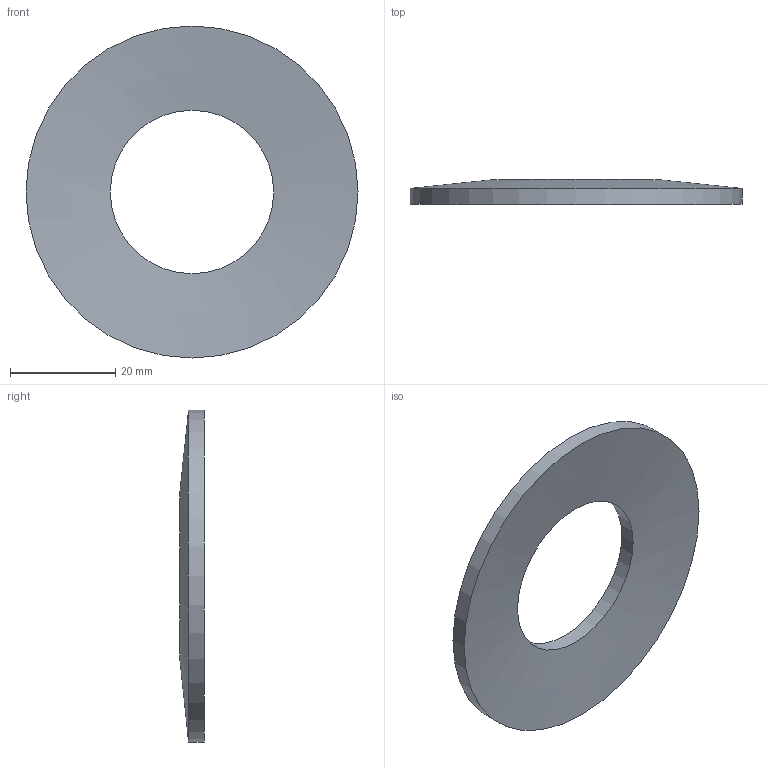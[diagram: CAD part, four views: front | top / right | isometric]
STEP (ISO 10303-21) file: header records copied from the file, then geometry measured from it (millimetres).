
FILE_DESCRIPTION(/* description */ ('11766N'),/* implementation_level */ '2;1');
FILE_NAME(/* name */ 'ST.0630.0310.0300.step',/* time_stamp */ '2026-09-18T10:32:28+02:00',/* author */ ('impex-ready.pl'),/* organization */ ('ST.0630.0310.0300'),/* preprocessor_version */ 'ST-DEVELOPER v20.1',/* originating_system */ 'Autodesk Inventor 2026',/* authorisation */ 'Ugiecie 0,75 h0 = 1.28');
FILE_SCHEMA (('AUTOMOTIVE_DESIGN { 1 0 10303 214 3 1 1 }'));
Length unit declared in the file: millimetre
Products named in the file (1): ST.0630.0310.0300
Bounding box: 63 x 4.7 x 63 mm (x, y, z)
Volume: 7126.6 mm3; surface area: 5641.9 mm2
Topology: 1 solids, 1 shells, 4 faces, 8 edges, 4 vertices
Faces by surface type: cone 2, cylinder 2
Full cylindrical faces by diameter (mm): 31 x1, 63 x1
Entity records: 151 total; most frequent: DIRECTION 22, CARTESIAN_POINT 17, ORIENTED_EDGE 16, AXIS2_PLACEMENT_3D 9, EDGE_CURVE 8, FACE_OUTER_BOUND 4, EDGE_LOOP 4, LINE 4
